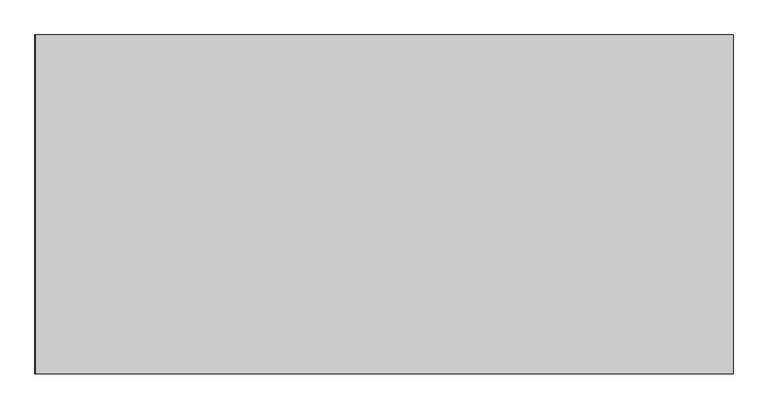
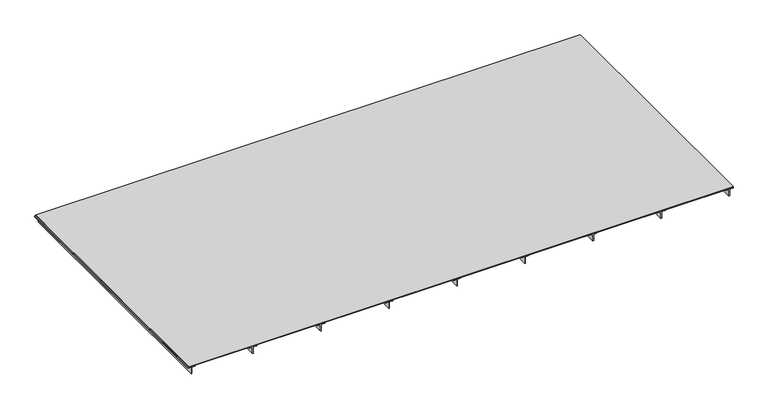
"""IFC4 building model written with IfcOpenShell, lengths in millimetres: proxy geometry, 大玻璃雨棚 : 标准."""

from ifc_helpers import new_model, si_unit, frame, origin, place, context, project, spatial, polyline, outline, extrude, source, transform, mapped, element, save


def generic_models_ae8a6056(model_context):
    return source(origin(), model_context, "Body", "SweptSolid", [
        extrude(outline(polyline([(2888.0, 5655.0), (2978.0, 5655.0), (2978.0, 5700.0), (2988.0, 5700.0), (2988.0, 5600.0), (2978.0, 5600.0), (2978.0, 5645.0), (2888.0, 5645.0), (2888.0, 5655.0)])), frame((0.0, -3500.0, 0.0), z_axis=(0.0, 1.0, 0.0), x_axis=(0.0, 0.0, 1.0)), (0.0, 0.0, 1.0), 3500.0),
        extrude(outline(polyline([(2888.0, 4755.0), (2978.0, 4755.0), (2978.0, 4800.0), (2988.0, 4800.0), (2988.0, 4700.0), (2978.0, 4700.0), (2978.0, 4745.0), (2888.0, 4745.0), (2888.0, 4755.0)])), frame((0.0, -3500.0, 0.0), z_axis=(0.0, 1.0, 0.0), x_axis=(0.0, 0.0, 1.0)), (0.0, 0.0, 1.0), 3500.0),
        extrude(outline(polyline([(2888.0, 3855.0), (2978.0, 3855.0), (2978.0, 3900.0), (2988.0, 3900.0), (2988.0, 3800.0), (2978.0, 3800.0), (2978.0, 3845.0), (2888.0, 3845.0), (2888.0, 3855.0)])), frame((0.0, -3500.0, 0.0), z_axis=(0.0, 1.0, 0.0), x_axis=(0.0, 0.0, 1.0)), (0.0, 0.0, 1.0), 3500.0),
        extrude(outline(polyline([(2888.0, 2955.0), (2978.0, 2955.0), (2978.0, 3000.0), (2988.0, 3000.0), (2988.0, 2900.0), (2978.0, 2900.0), (2978.0, 2945.0), (2888.0, 2945.0), (2888.0, 2955.0)])), frame((0.0, -3500.0, 0.0), z_axis=(0.0, 1.0, 0.0), x_axis=(0.0, 0.0, 1.0)), (0.0, 0.0, 1.0), 3500.0),
        extrude(outline(polyline([(2888.0, 2055.0), (2978.0, 2055.0), (2978.0, 2100.0), (2988.0, 2100.0), (2988.0, 2000.0), (2978.0, 2000.0), (2978.0, 2045.0), (2888.0, 2045.0), (2888.0, 2055.0)])), frame((0.0, -3500.0, 0.0), z_axis=(0.0, 1.0, 0.0), x_axis=(0.0, 0.0, 1.0)), (0.0, 0.0, 1.0), 3500.0),
        extrude(outline(polyline([(2888.0, 1155.0), (2978.0, 1155.0), (2978.0, 1200.0), (2988.0, 1200.0), (2988.0, 1100.0), (2978.0, 1100.0), (2978.0, 1145.0), (2888.0, 1145.0), (2888.0, 1155.0)])), frame((0.0, -3500.0, 0.0), z_axis=(0.0, 1.0, 0.0), x_axis=(0.0, 0.0, 1.0)), (0.0, 0.0, 1.0), 3500.0),
        extrude(outline(polyline([(2888.0, 255.0), (2978.0, 255.0), (2978.0, 300.0), (2988.0, 300.0), (2988.0, 200.0), (2978.0, 200.0), (2978.0, 245.0), (2888.0, 245.0), (2888.0, 255.0)])), frame((0.0, -3500.0, 0.0), z_axis=(0.0, 1.0, 0.0), x_axis=(0.0, 0.0, 1.0)), (0.0, 0.0, 1.0), 3500.0),
        extrude(outline(polyline([(2888.0, -645.0), (2978.0, -645.0), (2978.0, -600.0), (2988.0, -600.0), (2988.0, -700.0), (2978.0, -700.0), (2978.0, -655.0), (2888.0, -655.0), (2888.0, -645.0)])), frame((0.0, -3500.0, 0.0), z_axis=(0.0, 1.0, 0.0), x_axis=(0.0, 0.0, 1.0)), (0.0, 0.0, 1.0), 3500.0),
        extrude(outline(polyline([(2888.0, -1455.0), (2978.0, -1455.0), (2978.0, -1410.0), (2988.0, -1410.0), (2988.0, -1510.0), (2978.0, -1510.0), (2978.0, -1465.0), (2888.0, -1465.0), (2888.0, -1455.0)])), frame((0.0, -3500.0, 0.0), z_axis=(0.0, 1.0, 0.0), x_axis=(0.0, 0.0, 1.0)), (0.0, 0.0, 1.0), 3500.0),
        extrude(outline(polyline([(5700.0, 0.0), (5700.0, -3500.0), (-1500.0, -3500.0), (-1500.0, 0.0), (5700.0, 0.0)])), frame((0.0, 0.0, 2988.0), z_axis=(0.0, 0.0, 1.0), x_axis=(1.0, 0.0, 0.0)), (0.0, 0.0, 1.0), 12.0),
    ])


if __name__ == "__main__":
    model = new_model("IFC4")
    model_context = context("Model", 3, world=origin())
    ifc_project = project(units=[si_unit("LENGTHUNIT", "METRE", prefix="MILLI")], contexts=[model_context])
    site = spatial("IfcSite", under=ifc_project)
    building = spatial("IfcBuilding", under=site)
    placement = place(None, origin())
    generic_models_shape = generic_models_ae8a6056(model_context)
    element("IfcBuildingElementProxy", 1, Name="大玻璃雨棚 : 标准", ObjectType="大玻璃雨棚 : 标准", at=placement, inside=building, context=model_context, shape_type="MappedRepresentation", body=[
        mapped(generic_models_shape, transform((0.0, 0.0, 0.0), x_axis=(1.0, 0.0, 0.0), y_axis=(0.0, 1.0, 0.0), z_axis=(0.0, 0.0, 1.0))),
    ])
    save(model, "model.ifc")
